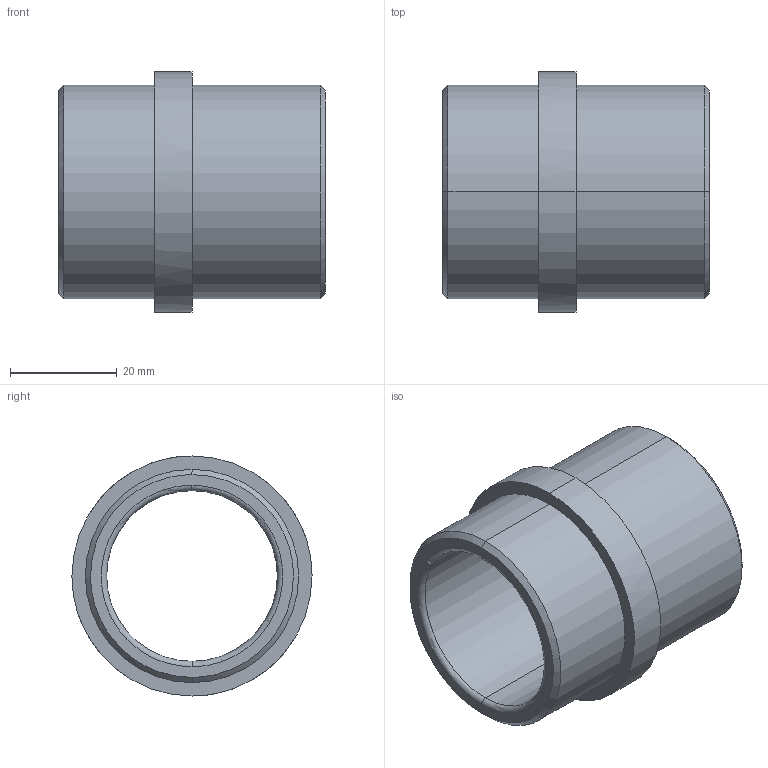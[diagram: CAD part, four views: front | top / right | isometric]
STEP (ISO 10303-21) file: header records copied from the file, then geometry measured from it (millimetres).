
FILE_DESCRIPTION(('CATIA V5 STEP Exchange'),'2;1');
FILE_NAME('C:\Users\Utente\Desktop\IO LAVORO\3D X SITO CF\X SITO\PLASTICA\354\354-32X50.stp','2021-04-21T08:45:03+00:00',('none'),('none'),'CATIA Version 5 Release 20 GA (IN-10)','CATIA V5 STEP AP203','none');
FILE_SCHEMA(('CONFIG_CONTROL_DESIGN'));
Length unit declared in the file: millimetre
Products named in the file (1): 354-32X50
Bounding box: 50 x 45 x 45 mm (x, y, z)
Volume: 24788.7 mm3; surface area: 12756.8 mm2
Topology: 1 solids, 1 shells, 20 faces, 64 edges, 48 vertices
Faces by surface type: cylinder 8, plane 4, cone 4, torus 4
Entity records: 906 total; most frequent: CARTESIAN_POINT 301, ORIENTED_EDGE 128, DIRECTION 92, EDGE_CURVE 64, AXIS2_PLACEMENT_3D 61, VERTEX_POINT 48, CIRCLE 40, EDGE_LOOP 24
